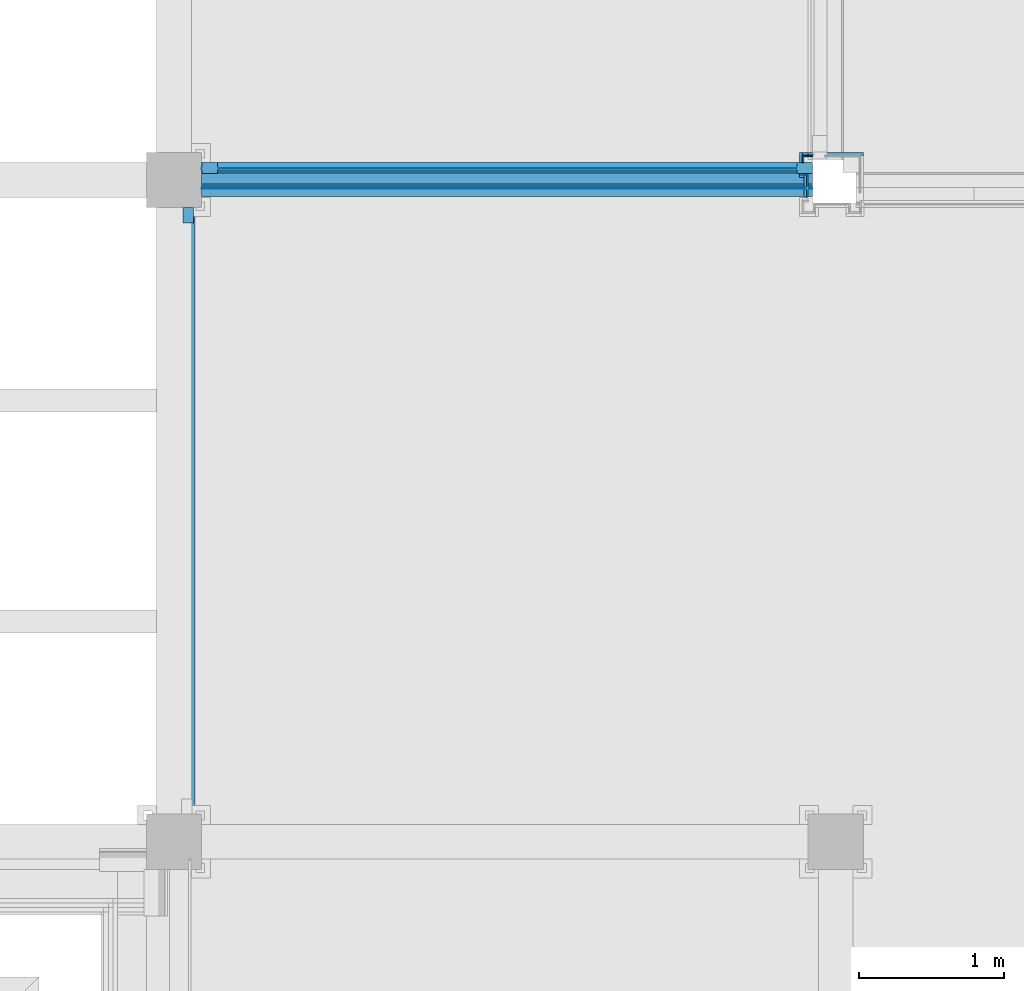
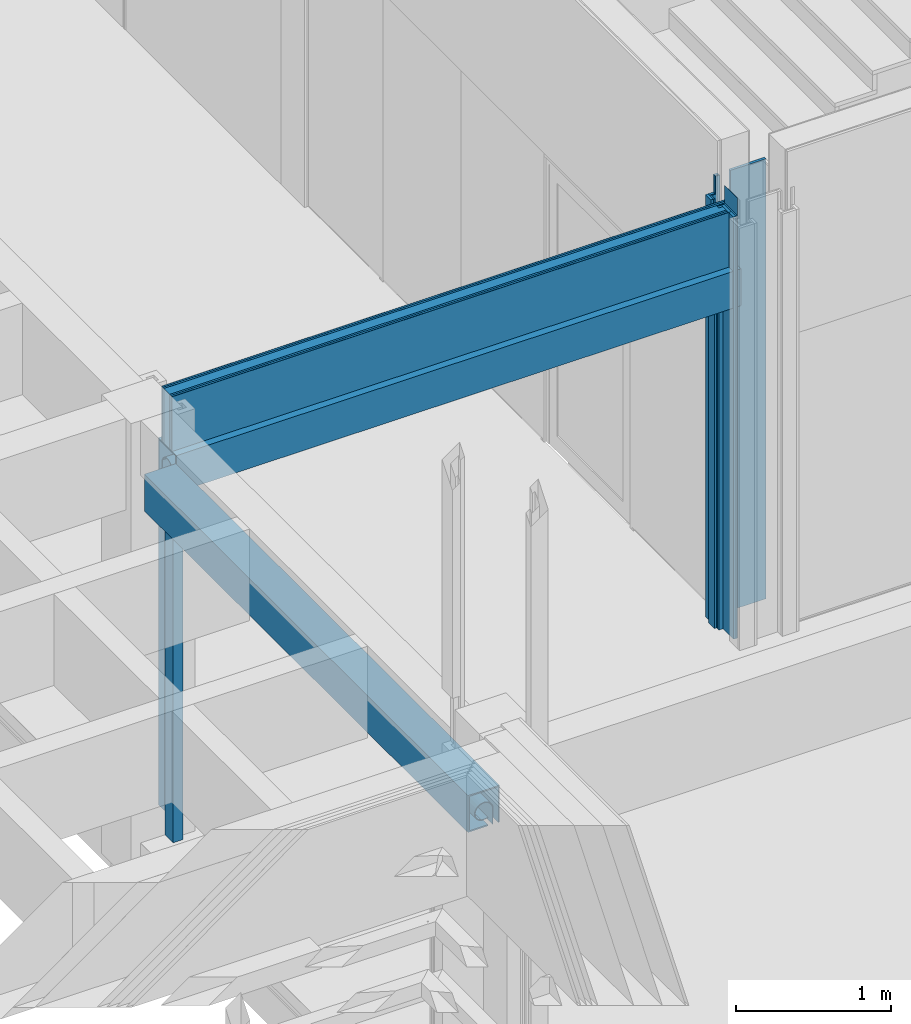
# One storey, part 76 of 139: 16 building element parts, 5 discrete accessories, 6 elements without a shape of their own.
"""IFC2X3 building model written with IfcOpenShell, lengths in millimetres."""

from ifc_helpers import new_model, entity, si_unit, converted_unit, derived_unit, money_unit, direction, frame, origin_with_axes, place, context, subcontext, project, spatial, faceted_brep, material, material_list, type_object, element, aggregate, save


model = new_model("IFC2X3")

# Units and contexts
model_context = context("Model", 3, precision=0.01, world=origin_with_axes(), true_north=direction((0.0, 1.0)))
body_context = subcontext(model_context, "Body", "Model", "MODEL_VIEW")
ifc_project = project(units=[si_unit("LENGTHUNIT", "METRE", prefix="MILLI"), si_unit("AREAUNIT", "SQUARE_METRE"), si_unit("VOLUMEUNIT", "CUBIC_METRE"), converted_unit("PLANEANGLEUNIT", "DEGREE", entity("IfcPlaneAngleMeasure", 0.0174532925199), si_unit("PLANEANGLEUNIT", "RADIAN"), dimensions=[0, 0, 0, 0, 0, 0, 0]), money_unit("EUR"), converted_unit("TIMEUNIT", "Year", entity("IfcTimeMeasure", 31556926.0), si_unit("TIMEUNIT", "SECOND"), dimensions=[0, 0, 1, 0, 0, 0, 0]), si_unit("MASSUNIT", "GRAM", prefix="KILO"), si_unit("THERMODYNAMICTEMPERATUREUNIT", "DEGREE_CELSIUS"), si_unit("LUMINOUSINTENSITYUNIT", "LUMEN"), si_unit("ENERGYUNIT", "JOULE", prefix="MEGA"), derived_unit("THERMALCONDUCTANCEUNIT", [(si_unit("POWERUNIT", "WATT"), 1), (si_unit("LENGTHUNIT", "METRE"), -1), (si_unit("THERMODYNAMICTEMPERATUREUNIT", "KELVIN"), -1)]), derived_unit("SPECIFICHEATCAPACITYUNIT", [(si_unit("ENERGYUNIT", "JOULE"), 1), (si_unit("MASSUNIT", "GRAM", prefix="KILO"), -1), (si_unit("THERMODYNAMICTEMPERATUREUNIT", "KELVIN"), -1)]), derived_unit("MASSDENSITYUNIT", [(si_unit("MASSUNIT", "GRAM", prefix="KILO"), 1), (si_unit("VOLUMEUNIT", "CUBIC_METRE"), -1)])], contexts=[model_context])

# Site, building, storey
site_placement = place(None, origin_with_axes())
site = spatial("IfcSite", under=ifc_project, at=site_placement, Name="Kolde pst 67a", CompositionType="ELEMENT")
building_placement = place(site_placement, origin_with_axes())
building = spatial("IfcBuilding", under=site, at=building_placement, Name="Riigigümnaasium", CompositionType="ELEMENT")
storey_placement = place(building_placement, frame((0.0, 0.0, 4600.0), z_axis=(0.0, 0.0, 1.0), x_axis=(1.0, 0.0, 0.0)))
storey = spatial("IfcBuildingStorey", under=building, at=storey_placement, Name="2. korrus", CompositionType="ELEMENT", Elevation=4600.0)

# Discrete accessories
ifc_material_1 = material(Name="_ÕHK")
ifc_material_2 = material(Name="_METALL - teras")
ifc_material_list = material_list([ifc_material_1, ifc_material_2])
discrete_accessory_type_1 = type_object("IfcDiscreteAccessoryType", Name="Fibreshield-p H kuni 6 m  235 x 290")
discrete_accessory_1_placement = place(storey_placement, frame((48162.4854611, 24420.0014333, 2600.0), z_axis=(0.0, 0.0, 1.0), x_axis=(1.0, 0.0, 0.0)))
element("IfcDiscreteAccessory", 1, at=discrete_accessory_1_placement, inside=storey, type_object=discrete_accessory_type_1, material=ifc_material_list, Name="Tuletõkkekardin", context=body_context, shape_type="Brep", body=[
    faceted_brep([(22.499999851, 4170.003165, 126.667118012), (24.8060324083, 4170.003165, 108.84783711), (24.8060324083, 0.0, 108.84783711), (22.499999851, 0.0, 126.667118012), (25.7653806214, 4170.003165, 147.797442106), (35.2568740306, 4170.003165, 166.956378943), (50.0889560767, 4170.003165, 182.356464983), (68.8778440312, 4170.003165, 192.560924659), (89.8705986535, 4170.003165, 196.617716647), (111.10866745, 4170.003165, 194.148356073), (130.610610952, 4170.003165, 185.383225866), (146.556964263, 4170.003165, 171.140082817), (157.459986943, 4170.003165, 152.747763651), (161.228447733, 4170.003165, 139.948701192), (162.499999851, 4170.003165, 126.667118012), (162.499999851, 4170.003165, 0.555395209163), (157.499999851, 4170.003165, 0.555395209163), (157.499999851, 4170.003165, 126.667118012), (153.580020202, 4170.003165, 148.898427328), (142.292888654, 4170.003165, 168.448312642), (124.999999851, 4170.003165, 182.958769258), (103.787131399, 4170.003165, 190.679621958), (81.2128683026, 4170.003165, 190.679621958), (59.999999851, 4170.003165, 182.958769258), (42.7071110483, 4170.003165, 168.448312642), (31.4199794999, 4170.003165, 148.898427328), (27.499999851, 4170.003165, 126.667118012), (30.6090574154, 4170.003165, 106.804810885), (39.6388073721, 4170.003165, 88.8425977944), (53.7254339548, 4170.003165, 74.4988034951), (71.5213638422, 4170.003165, 65.1456028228), (97.8520772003, 4170.003165, 63.4245440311), (123.519091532, 4170.003165, 69.546054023), (125.382804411, 4170.003165, 64.871315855), (107.591032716, 4170.003165, 59.5917922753), (89.1009241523, 4170.003165, 57.9991860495), (70.6684146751, 4170.003165, 60.1586081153), (56.4372110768, 4170.003165, 66.6714909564), (42.3526829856, 4170.003165, 77.8281314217), (31.572193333, 4170.003165, 92.2026088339), (31.572193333, 0.0, 92.2026088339), (42.3526829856, 0.0, 77.8281314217), (56.4372110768, 0.0, 66.6714909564), (70.6684146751, 0.0, 60.1586081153), (89.1009241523, 0.0, 57.9991860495), (107.591032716, 0.0, 59.5917922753), (125.382804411, 0.0, 64.871315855), (123.519091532, 0.0, 69.546054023), (97.8520772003, 0.0, 63.4245440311), (71.5213638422, 0.0, 65.1456028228), (53.7254339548, 0.0, 74.4988034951), (39.6388073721, 0.0, 88.8425977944), (30.6090574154, 0.0, 106.804810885), (27.499999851, 0.0, 126.667118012), (31.4199794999, 0.0, 148.898427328), (42.7071110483, 0.0, 168.448312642), (59.999999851, 0.0, 182.958769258), (81.2128683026, 0.0, 190.679621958), (103.787131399, 0.0, 190.679621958), (124.999999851, 0.0, 182.958769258), (142.292888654, 0.0, 168.448312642), (153.580020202, 0.0, 148.898427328), (157.499999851, 0.0, 126.667118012), (157.499999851, 0.0, 0.555395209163), (162.499999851, 0.0, 0.555395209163), (162.499999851, 0.0, 126.667118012), (161.228447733, 0.0, 139.948701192), (157.459986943, 0.0, 152.747763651), (146.556964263, 0.0, 171.140082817), (130.610610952, 0.0, 185.383225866), (111.10866745, 0.0, 194.148356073), (89.8705986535, 0.0, 196.617716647), (68.8778440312, 0.0, 192.560924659), (50.0889560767, 0.0, 182.356464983), (35.2568740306, 0.0, 166.956378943), (25.7653806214, 0.0, 147.797442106)], [[[0, 1, 2, 3]], [[0, 4, 5, 6, 7, 8, 9, 10, 11, 12, 13, 14, 15, 16, 17, 18, 19, 20, 21, 22, 23, 24, 25, 26, 27, 28, 29, 30, 31, 32, 33, 34, 35, 36, 37, 38, 39, 1]], [[1, 39, 40, 2]], [[3, 2, 40, 41, 42, 43, 44, 45, 46, 47, 48, 49, 50, 51, 52, 53, 54, 55, 56, 57, 58, 59, 60, 61, 62, 63, 64, 65, 66, 67, 68, 69, 70, 71, 72, 73, 74, 75]], [[4, 0, 3, 75]], [[5, 4, 75, 74]], [[6, 5, 74, 73]], [[7, 6, 73, 72]], [[8, 7, 72, 71]], [[9, 8, 71, 70]], [[10, 9, 70, 69]], [[11, 10, 69, 68]], [[12, 11, 68, 67]], [[13, 12, 67, 66]], [[14, 13, 66, 65]], [[15, 14, 65, 64]], [[16, 15, 64, 63]], [[17, 16, 63, 62]], [[18, 17, 62, 61]], [[19, 18, 61, 60]], [[20, 19, 60, 59]], [[21, 20, 59, 58]], [[22, 21, 58, 57]], [[23, 22, 57, 56]], [[24, 23, 56, 55]], [[25, 24, 55, 54]], [[26, 25, 54, 53]], [[27, 26, 53, 52]], [[28, 27, 52, 51]], [[29, 28, 51, 50]], [[30, 29, 50, 49]], [[31, 30, 49, 48]], [[32, 31, 48, 47]], [[33, 32, 47, 46]], [[34, 33, 46, 45]], [[35, 34, 45, 44]], [[36, 35, 44, 43]], [[37, 36, 43, 42]], [[38, 37, 42, 41]], [[39, 38, 41, 40]]]),
    faceted_brep([(-25.0, 4170.003165, 0.0), (122.368444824, 4170.003165, 0.0), (122.368444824, 0.0, 0.0), (-25.0, 0.0, 0.0), (-25.0, 4170.003165, 290.0), (210.000000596, 4170.003165, 290.0), (210.000000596, 4170.003165, 0.0), (199.999998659, 4170.003165, 0.0), (199.999998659, 4170.003165, 279.999998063), (-14.9999980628, 4170.003165, 279.999998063), (-14.9999980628, 4170.003165, 10.0000019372), (122.368444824, 4170.003165, 10.0000019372), (122.368444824, 0.0, 10.0000019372), (-14.9999980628, 0.0, 10.0000019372), (-14.9999980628, 0.0, 279.999998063), (199.999998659, 0.0, 279.999998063), (199.999998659, 0.0, 0.0), (210.000000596, 0.0, 0.0), (210.000000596, 0.0, 290.0), (-25.0, 0.0, 290.0)], [[[0, 1, 2, 3]], [[0, 4, 5, 6, 7, 8, 9, 10, 11, 1]], [[1, 11, 12, 2]], [[3, 2, 12, 13, 14, 15, 16, 17, 18, 19]], [[4, 0, 3, 19]], [[5, 4, 19, 18]], [[6, 5, 18, 17]], [[7, 6, 17, 16]], [[8, 7, 16, 15]], [[9, 8, 15, 14]], [[10, 9, 14, 13]], [[11, 10, 13, 12]]]),
])
discrete_accessory_2_placement = place(storey_placement, frame((52618.9990217, 28689.9997017, 2600.0), z_axis=(0.0, 0.0, 1.0), x_axis=(0.0, 1.0, 0.0)))
element("IfcDiscreteAccessory", 2, at=discrete_accessory_2_placement, inside=storey, type_object=discrete_accessory_type_1, material=ifc_material_list, Name="Tuletõkkekardin", context=body_context, shape_type="Brep", body=[
    faceted_brep([(135.999998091, 29.0048994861, 180.569472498), (130.610610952, 29.0048994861, 185.383225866), (130.610610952, 0.0, 185.383225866), (146.556964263, 0.0, 171.140082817), (146.556964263, 4199.01356101, 171.140082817), (130.610610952, 4199.01356101, 185.383225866), (130.610610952, 89.0049028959, 185.383225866), (135.999998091, 89.0049028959, 180.569472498), (135.999998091, 39.0048994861, 180.569472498), (135.999998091, 29.0048994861, 173.728674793), (124.999999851, 29.0048994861, 182.958769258), (103.787131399, 29.0048994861, 190.679621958), (81.2128683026, 29.0048994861, 190.679621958), (59.999999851, 29.0048994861, 182.958769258), (42.7071110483, 29.0048994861, 168.448312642), (31.4199794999, 29.0048994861, 148.898427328), (27.499999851, 29.0048994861, 126.667118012), (30.6090574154, 29.0048994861, 106.804810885), (39.6388073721, 29.0048994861, 88.8425977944), (53.7254339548, 29.0048994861, 74.4988034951), (71.5213638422, 29.0048994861, 65.1456028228), (97.8520772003, 29.0048994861, 63.4245440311), (123.519091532, 29.0048994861, 69.546054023), (125.382804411, 29.0048994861, 64.871315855), (107.591032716, 29.0048994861, 59.5917922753), (89.1009241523, 29.0048994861, 57.9991860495), (70.6684146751, 29.0048994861, 60.1586081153), (56.4372110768, 29.0048994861, 66.6714909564), (42.3526829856, 29.0048994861, 77.8281314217), (31.572193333, 29.0048994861, 92.2026088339), (24.8060324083, 29.0048994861, 108.84783711), (22.499999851, 29.0048994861, 126.667118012), (25.7653806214, 29.0048994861, 147.797442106), (35.2568740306, 29.0048994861, 166.956378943), (50.0889560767, 29.0048994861, 182.356464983), (68.8778440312, 29.0048994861, 192.560924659), (89.8705986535, 29.0048994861, 196.617716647), (111.10866745, 29.0048994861, 194.148356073), (111.10866745, 0.0, 194.148356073), (25.7653806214, 0.0, 147.797442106), (22.499999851, 0.0, 126.667118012), (24.8060324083, 0.0, 108.84783711), (31.572193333, 0.0, 92.2026088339), (42.3526829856, 0.0, 77.8281314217), (56.4372110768, 0.0, 66.6714909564), (70.6684146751, 0.0, 60.1586081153), (89.1009241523, 0.0, 57.9991860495), (107.591032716, 0.0, 59.5917922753), (125.382804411, 0.0, 64.871315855), (123.519091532, 0.0, 69.546054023), (97.8520772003, 0.0, 63.4245440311), (71.5213638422, 0.0, 65.1456028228), (53.7254339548, 0.0, 74.4988034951), (39.6388073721, 0.0, 88.8425977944), (30.6090574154, 0.0, 106.804810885), (27.499999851, 0.0, 126.667118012), (31.4199794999, 0.0, 148.898427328), (42.7071110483, 0.0, 168.448312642), (59.999999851, 0.0, 182.958769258), (81.2128683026, 0.0, 190.679621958), (103.787131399, 0.0, 190.679621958), (124.999999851, 0.0, 182.958769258), (142.292888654, 0.0, 168.448312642), (153.580020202, 0.0, 148.898427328), (157.499999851, 0.0, 126.667118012), (157.499999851, 0.0, 0.555395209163), (162.499999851, 0.0, 0.555395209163), (162.499999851, 0.0, 126.667118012), (161.228447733, 0.0, 139.948701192), (157.459986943, 0.0, 152.747763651), (89.8705986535, 0.0, 196.617716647), (68.8778440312, 0.0, 192.560924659), (50.0889560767, 0.0, 182.356464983), (35.2568740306, 0.0, 166.956378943), (157.459986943, 4199.01356101, 152.747763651), (24.8060324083, 4199.01356101, 108.84783711), (22.499999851, 4199.01356101, 126.667118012), (25.7653806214, 4199.01356101, 147.797442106), (35.2568740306, 4199.01356101, 166.956378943), (50.0889560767, 4199.01356101, 182.356464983), (68.8778440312, 4199.01356101, 192.560924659), (89.8705986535, 4199.01356101, 196.617716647), (111.10866745, 4199.01356101, 194.148356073), (161.228447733, 4199.01356101, 139.948701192), (162.499999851, 4199.01356101, 126.667118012), (162.499999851, 4199.01356101, 0.555395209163), (157.499999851, 4199.01356101, 0.555395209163), (157.499999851, 4199.01356101, 126.667118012), (153.580020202, 4199.01356101, 148.898427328), (142.292888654, 4199.01356101, 168.448312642), (124.999999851, 4199.01356101, 182.958769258), (103.787131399, 4199.01356101, 190.679621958), (81.2128683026, 4199.01356101, 190.679621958), (59.999999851, 4199.01356101, 182.958769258), (42.7071110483, 4199.01356101, 168.448312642), (31.4199794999, 4199.01356101, 148.898427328), (27.499999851, 4199.01356101, 126.667118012), (30.6090574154, 4199.01356101, 106.804810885), (39.6388073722, 4199.01356101, 88.8425977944), (53.7254339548, 4199.01356101, 74.4988034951), (71.5213638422, 4199.01356101, 65.1456028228), (97.8520772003, 4199.01356101, 63.4245440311), (123.519091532, 4199.01356101, 69.546054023), (125.382804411, 4199.01356101, 64.871315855), (107.591032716, 4199.01356101, 59.5917922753), (89.1009241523, 4199.01356101, 57.9991860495), (70.6684146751, 4199.01356101, 60.1586081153), (56.4372110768, 4199.01356101, 66.6714909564), (42.3526829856, 4199.01356101, 77.8281314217), (31.572193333, 4199.01356101, 92.2026088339), (111.10866745, 89.0049028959, 194.148356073), (135.999998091, 89.0049028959, 173.728674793), (105.999998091, 89.0049028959, 194.74234354), (105.999998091, 89.0049028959, 189.87420435), (124.999999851, 89.0049028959, 182.958769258), (135.999998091, 39.0048994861, 173.728674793), (24.8060324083, 59.0048994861, 108.84783711), (22.499999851, 59.0048994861, 126.667118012), (25.7653806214, 59.0048994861, 147.797442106), (35.2568740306, 59.0048994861, 166.956378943), (50.0889560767, 59.0048994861, 182.356464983), (68.8778440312, 59.0048994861, 192.560924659), (89.8705986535, 59.0048994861, 196.617716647), (105.999998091, 59.0048994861, 194.74234354), (105.999998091, 59.0048994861, 189.87420435), (103.787131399, 59.0048994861, 190.679621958), (81.2128683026, 59.0048994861, 190.679621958), (59.999999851, 59.0048994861, 182.958769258), (42.7071110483, 59.0048994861, 168.448312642), (31.4199794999, 59.0048994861, 148.898427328), (27.499999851, 59.0048994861, 126.667118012), (30.6090574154, 59.0048994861, 106.804810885), (39.6388073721, 59.0048994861, 88.8425977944), (53.7254339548, 59.0048994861, 74.4988034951), (71.5213638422, 59.0048994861, 65.1456028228), (97.8520772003, 59.0048994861, 63.4245440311), (105.999998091, 59.0048994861, 65.3678000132), (105.999998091, 89.0049028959, 65.3678000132), (123.519091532, 89.0049028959, 69.546054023), (125.382804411, 89.0049028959, 64.871315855), (107.591032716, 89.0049028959, 59.5917922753), (105.999998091, 59.0048994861, 59.4547518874), (89.1009241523, 59.0048994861, 57.9991860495), (105.999998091, 89.0049028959, 59.4547518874), (70.6684146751, 59.0048994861, 60.1586081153), (56.4372110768, 59.0048994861, 66.6714909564), (42.3526829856, 59.0048994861, 77.8281314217), (31.572193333, 59.0048994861, 92.2026088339)], [[[0, 1, 2, 3, 4, 5, 6, 7, 8]], [[1, 0, 9, 10, 11, 12, 13, 14, 15, 16, 17, 18, 19, 20, 21, 22, 23, 24, 25, 26, 27, 28, 29, 30, 31, 32, 33, 34, 35, 36, 37]], [[1, 37, 38, 2]], [[39, 40, 41, 42, 43, 44, 45, 46, 47, 48, 49, 50, 51, 52, 53, 54, 55, 56, 57, 58, 59, 60, 61, 62, 63, 64, 65, 66, 67, 68, 69, 3, 2, 38, 70, 71, 72, 73]], [[69, 74, 4, 3]], [[75, 76, 77, 78, 79, 80, 81, 82, 5, 4, 74, 83, 84, 85, 86, 87, 88, 89, 90, 91, 92, 93, 94, 95, 96, 97, 98, 99, 100, 101, 102, 103, 104, 105, 106, 107, 108, 109]], [[6, 5, 82, 110]], [[111, 7, 6, 110, 112, 113, 114]], [[115, 8, 7, 111]], [[0, 8, 115, 9]], [[9, 115, 111, 114, 90, 89, 62, 61, 10]], [[11, 10, 61, 60]], [[12, 11, 60, 59]], [[13, 12, 59, 58]], [[14, 13, 58, 57]], [[15, 14, 57, 56]], [[16, 15, 56, 55]], [[17, 16, 55, 54]], [[18, 17, 54, 53]], [[19, 18, 53, 52]], [[20, 19, 52, 51]], [[21, 20, 51, 50]], [[22, 21, 50, 49]], [[23, 22, 49, 48]], [[24, 23, 48, 47]], [[25, 24, 47, 46]], [[26, 25, 46, 45]], [[27, 26, 45, 44]], [[28, 27, 44, 43]], [[29, 28, 43, 42]], [[30, 29, 42, 41]], [[31, 30, 41, 40]], [[32, 31, 40, 39]], [[33, 32, 39, 73]], [[34, 33, 73, 72]], [[35, 34, 72, 71]], [[36, 35, 71, 70]], [[37, 36, 70, 38]], [[62, 89, 88, 63]], [[63, 88, 87, 64]], [[64, 87, 86, 65]], [[65, 86, 85, 66]], [[66, 85, 84, 67]], [[67, 84, 83, 68]], [[68, 83, 74, 69]], [[116, 117, 76, 75]], [[117, 118, 77, 76]], [[118, 119, 78, 77]], [[119, 120, 79, 78]], [[120, 121, 80, 79]], [[121, 122, 81, 80]], [[122, 123, 112, 110, 82, 81]], [[124, 125, 91, 90, 114, 113]], [[125, 126, 92, 91]], [[126, 127, 93, 92]], [[127, 128, 94, 93]], [[128, 129, 95, 94]], [[129, 130, 96, 95]], [[130, 131, 97, 96]], [[131, 132, 98, 97]], [[132, 133, 99, 98]], [[133, 134, 100, 99]], [[134, 135, 101, 100]], [[135, 136, 137, 138, 102, 101]], [[138, 139, 103, 102]], [[139, 140, 104, 103]], [[141, 142, 105, 104, 140, 143]], [[142, 144, 106, 105]], [[144, 145, 107, 106]], [[145, 146, 108, 107]], [[146, 147, 109, 108]], [[147, 116, 75, 109]], [[123, 124, 113, 112]], [[124, 123, 122, 121, 120, 119, 118, 117, 116, 147, 146, 145, 144, 142, 141, 136, 135, 134, 133, 132, 131, 130, 129, 128, 127, 126, 125]], [[136, 141, 143, 137]], [[140, 139, 138, 137, 143]]]),
    faceted_brep([(-25.0, 4199.01356101, 0.0), (122.368444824, 4199.01356101, 0.0), (122.368444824, 0.0, 0.0), (-25.0, 0.0, 0.0), (-25.0, 4199.01356101, 290.0), (210.000000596, 4199.01356101, 290.0), (210.000000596, 4199.01356101, 0.0), (199.999998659, 4199.01356101, 0.0), (199.999998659, 4199.01356101, 279.999998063), (-14.9999980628, 4199.01356101, 279.999998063), (-14.9999980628, 4199.01356101, 10.0000019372), (122.368444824, 4199.01356101, 10.0000019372), (122.368444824, 0.0, 10.0000019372), (-14.9999980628, 0.0, 10.0000019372), (-14.9999980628, 0.0, 279.999998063), (199.999998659, 0.0, 279.999998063), (199.999998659, 0.0, 0.0), (210.000000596, 0.0, 0.0), (210.000000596, 0.0, 290.0), (-25.0, 0.0, 290.0)], [[[0, 1, 2, 3]], [[0, 4, 5, 6, 7, 8, 9, 10, 11, 1]], [[1, 11, 12, 2]], [[3, 2, 12, 13, 14, 15, 16, 17, 18, 19]], [[4, 0, 3, 19]], [[5, 4, 19, 18]], [[6, 5, 18, 17]], [[7, 6, 17, 16]], [[8, 7, 16, 15]], [[9, 8, 15, 14]], [[10, 9, 14, 13]], [[11, 10, 13, 12]]]),
])
discrete_accessory_type_2 = type_object("IfcDiscreteAccessoryType", Name="_METALL - teras 74 x 105")
for number, where, z_axis, x_axis in (
    (3, (52566.4941222, 28862.9996998, 0.0), (0.0, 0.0, 1.0), (0.0, -1.0, 0.0)),
    (4, (48475.4805621, 28862.9996989, 0.0), (0.0, 0.0, 1.0), (0.0, -1.0, 0.0)),
    (5, (48327.9854602, 28537.5045983, 0.0), (0.0, 0.0, 1.0), (-1.0, 0.0, 0.0)),
):
    element("IfcDiscreteAccessory", number, at=place(storey_placement, frame(where, z_axis=z_axis, x_axis=x_axis)), inside=storey, type_object=discrete_accessory_type_2, material=ifc_material_2, Name="Tuletõkke kardin", context=body_context, shape_type="Brep", body=[
        faceted_brep([(37.0, 52.5, 2600.0), (37.0, 52.5, 0.0), (-37.0, 52.5, 0.0), (-37.0, 52.5, 2600.0), (37.0, -52.5, 2600.0), (37.0, -52.5, 0.0), (-37.0, -52.5, 0.0), (-37.0, -52.5, 2600.0)], [[[0, 1, 2, 3]], [[4, 5, 1, 0]], [[2, 1, 5, 6]], [[3, 2, 6, 7]], [[4, 0, 3, 7]], [[7, 6, 5, 4]]]),
    ])

# Wall, building element parts
wall_type_1 = type_object("IfcWallType", Name="SS-MK-1/1_1x dold pinnakiht 30", PredefinedType="NOTDEFINED")
wall_1_placement = place(storey_placement, frame((52589.9941222, 28659.6780521, 0.0), z_axis=(0.0, 0.0, 1.0), x_axis=(0.0, 1.0, 0.0)))
wall_1 = element("IfcWall", 6, at=wall_1_placement, inside=storey, type_object=wall_type_1, Name="Sisesein")
ifc_material_3 = material(Name="_VIIMISTLUSKIHT - Dold plaat vastavalt SA osale")
building_element_part_1_placement = place(wall_1_placement, origin_with_axes())
building_element_part_1 = element("IfcBuildingElementPart", 7, at=building_element_part_1_placement, material=ifc_material_3, Name="_VIIMISTLUSKIHT - Dold plaat vastavalt SA osale", context=body_context, shape_type="Brep", body=[
    faceted_brep([(5.32164961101, 10.0, 2600.0), (5.32164961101, 10.0, 2890.0), (156.321647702, 10.0, 2890.0), (156.321647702, 10.0, 3320.0), (0.0, 10.0, 3320.0), (0.0, 10.0, 0.0), (156.321647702, 10.0, 0.0), (156.321647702, 10.0, 2879.99999806), (15.3216515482, 10.0, 2879.99999806), (15.3216515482, 10.0, 2610.00000194), (152.690094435, 10.0, 2610.00000194), (152.690094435, 10.0, 2600.0), (5.32164961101, 30.0, 2600.0), (5.32164961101, 30.0, 2890.0), (156.321647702, 30.0, 2890.0), (156.321647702, 30.0, 3320.0), (0.0, 30.0, 3320.0), (0.0, 30.0, 0.0), (156.321647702, 30.0, 0.0), (156.321647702, 30.0, 2879.99999806), (15.3216515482, 30.0, 2879.99999806), (15.3216515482, 30.0, 2610.00000194), (152.690094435, 30.0, 2610.00000194), (152.690094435, 30.0, 2600.0)], [[[0, 1, 2, 3, 4, 5, 6, 7, 8, 9, 10, 11]], [[1, 0, 12, 13]], [[14, 2, 1, 13]], [[2, 14, 15, 3]], [[16, 4, 3, 15]], [[5, 4, 16, 17]], [[17, 18, 6, 5]], [[19, 7, 6, 18]], [[8, 7, 19, 20]], [[9, 8, 20, 21]], [[10, 9, 21, 22]], [[11, 10, 22, 23]], [[0, 11, 23, 12]], [[20, 19, 18, 17, 16, 15, 14, 13, 12, 23, 22, 21]]]),
])
ifc_material_4 = material(Name="_KARKASS - eriprofiilkinnitus vastavalt sisemisele plaatviimistlusele")
building_element_part_2_placement = place(wall_1_placement, origin_with_axes())
building_element_part_2 = element("IfcBuildingElementPart", 8, at=building_element_part_2_placement, material=ifc_material_4, Name="_KARKASS - eriprofiilkinnitus vastavalt sisemisele plaatviimistlusele", context=body_context, shape_type="Brep", body=[
    faceted_brep([(152.690094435, 0.0, 2600.0), (5.32164961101, 0.0, 2600.0), (5.32164961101, 0.0, 2890.0), (166.321647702, 0.0, 2890.0), (166.321647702, 0.0, 3460.0), (0.0, 0.0, 3460.0), (0.0, 0.0, 0.0), (166.321647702, 0.0, 0.0), (166.321647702, 0.0, 2879.99999806), (15.3216515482, 0.0, 2879.99999806), (15.3216515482, 0.0, 2610.00000194), (152.690094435, 0.0, 2610.00000194), (5.32164961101, 10.0, 2600.0), (152.690094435, 10.0, 2600.0), (5.32164961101, 10.0, 2890.0), (166.321647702, 10.0, 2890.0), (166.321647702, 10.0, 3320.0), (166.321647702, 0.999999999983, 3320.0), (166.321647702, 0.999999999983, 3460.0), (0.0, 0.999999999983, 3460.0), (0.0, 0.999999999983, 3320.0), (0.0, 10.0, 3320.0), (0.0, 10.0, 0.0), (166.321647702, 10.0, 0.0), (166.321647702, 10.0, 2879.99999806), (15.3216515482, 10.0, 2879.99999806), (15.3216515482, 10.0, 2610.00000194), (152.690094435, 10.0, 2610.00000194)], [[[0, 1, 2, 3, 4, 5, 6, 7, 8, 9, 10, 11]], [[12, 1, 0, 13]], [[14, 2, 1, 12]], [[14, 15, 3, 2]], [[4, 3, 15, 16, 17, 18]], [[5, 4, 18, 19]], [[5, 19, 20, 21, 22, 6]], [[6, 22, 23, 7]], [[23, 24, 8, 7]], [[25, 9, 8, 24]], [[26, 10, 9, 25]], [[27, 11, 10, 26]], [[13, 0, 11, 27]], [[26, 25, 24, 23, 22, 21, 16, 15, 14, 12, 13, 27]], [[21, 20, 17, 16]], [[17, 20, 19, 18]]]),
])
aggregate(wall_1, [building_element_part_1, building_element_part_2])

wall_2_placement = place(storey_placement, frame((52589.9941222, 28825.9996998, 0.0), z_axis=(0.0, 0.0, 1.0), x_axis=(-1.0, 0.0, 0.0)))
wall_2 = element("IfcWall", 9, at=wall_2_placement, inside=storey, type_object=wall_type_1, Name="Sisesein")
building_element_part_3_placement = place(wall_2_placement, origin_with_axes())
building_element_part_3 = element("IfcBuildingElementPart", 10, at=building_element_part_3_placement, material=ifc_material_3, Name="_VIIMISTLUSKIHT - Dold plaat vastavalt SA osale", context=body_context, shape_type="Brep", body=[
    faceted_brep([(30.0, 10.0, 2879.99999806), (30.0, 30.0, 2879.99999806), (30.0, 30.0, 2610.00000194), (30.0, 13.6315532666, 2610.00000194), (30.0, 13.6315532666, 2600.0), (30.0, 30.0, 2600.0), (30.0, 30.0, 0.0), (30.0, 10.0, 0.0), (60.0000034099, 10.0, 2879.99999806), (60.0000034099, 30.0, 2879.99999806), (60.0000034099, 30.0, 2610.00000194), (60.0000034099, 13.6315532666, 2610.00000194), (60.0000034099, 13.6315532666, 2600.0), (60.0000034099, 30.0, 2600.0), (60.0000034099, 30.0, 0.0), (60.0000034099, 10.0, 0.0)], [[[0, 1, 2, 3, 4, 5, 6, 7]], [[1, 0, 8, 9]], [[1, 9, 10, 2]], [[3, 2, 10, 11]], [[4, 3, 11, 12]], [[5, 4, 12, 13]], [[5, 13, 14, 6]], [[7, 6, 14, 15]], [[8, 0, 7, 15]], [[9, 8, 15, 14, 13, 12, 11, 10]]]),
    faceted_brep([(30.0, 30.0, 2890.0), (30.0, 10.0, 2890.0), (30.0, 10.0, 3320.0), (30.0, 30.0, 3320.0), (60.0000034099, 10.0, 2890.0), (60.0000034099, 30.0, 2890.0), (60.0000034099, 10.0, 3320.0), (60.0000034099, 30.0, 3320.0)], [[[0, 1, 2, 3]], [[4, 1, 0, 5]], [[1, 4, 6, 2]], [[7, 3, 2, 6]], [[5, 0, 3, 7]], [[4, 5, 7, 6]]]),
])
building_element_part_4_placement = place(wall_2_placement, origin_with_axes())
building_element_part_4 = element("IfcBuildingElementPart", 11, at=building_element_part_4_placement, material=ifc_material_4, Name="_KARKASS - eriprofiilkinnitus vastavalt sisemisele plaatviimistlusele", context=body_context, shape_type="Brep", body=[
    faceted_brep([(60.0000034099, 0.0, 2879.99999806), (10.0, 0.0, 2879.99999806), (10.0, 0.0, 0.0), (60.0000034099, 0.0, 0.0), (10.0, 10.0, 2879.99999806), (60.0000034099, 10.0, 2879.99999806), (10.0, 10.0, 0.0), (60.0000034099, 10.0, 0.0)], [[[0, 1, 2, 3]], [[4, 1, 0, 5]], [[1, 4, 6, 2]], [[2, 6, 7, 3]], [[5, 0, 3, 7]], [[4, 5, 7, 6]]]),
    faceted_brep([(10.0, 10.0, 2890.0), (10.0, 0.0, 2890.0), (10.0, 0.0, 3320.0), (10.0, 10.0, 3320.0), (60.0000034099, 0.0, 2890.0), (60.0000034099, 10.0, 2890.0), (60.0000034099, 0.0, 3320.0), (60.0000034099, 10.0, 3320.0)], [[[0, 1, 2, 3]], [[4, 1, 0, 5]], [[1, 4, 6, 2]], [[7, 3, 2, 6]], [[5, 0, 3, 7]], [[4, 5, 7, 6]]]),
])
aggregate(wall_2, [building_element_part_3, building_element_part_4])

wall_3_placement = place(storey_placement, frame((52559.9941188, 28899.9996552, 0.0), z_axis=(0.0, 0.0, 1.0), x_axis=(0.0, 1.0, 0.0)))
wall_3 = element("IfcWall", 12, at=wall_3_placement, inside=storey, type_object=wall_type_1, Name="Sisesein")
building_element_part_5_placement = place(wall_3_placement, origin_with_axes())
building_element_part_5 = element("IfcBuildingElementPart", 13, at=building_element_part_5_placement, material=ifc_material_3, Name="_VIIMISTLUSKIHT - Dold plaat vastavalt SA osale", context=body_context, shape_type="Brep", body=[
    faceted_brep([(70.0000008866, 30.0, 0.0), (70.0000008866, 30.0, 3320.0), (70.0000008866, 10.0, 3320.0), (70.0000008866, 10.0, 0.0), (0.0, 30.0, 0.0), (0.0, 30.0, 3320.0), (0.0, 10.0, 3320.0), (0.0, 10.0, 0.0)], [[[0, 1, 2, 3]], [[4, 5, 1, 0]], [[5, 6, 2, 1]], [[3, 2, 6, 7]], [[4, 0, 3, 7]], [[7, 6, 5, 4]]]),
])
building_element_part_6_placement = place(wall_3_placement, origin_with_axes())
building_element_part_6 = element("IfcBuildingElementPart", 14, at=building_element_part_6_placement, material=ifc_material_4, Name="_KARKASS - eriprofiilkinnitus vastavalt sisemisele plaatviimistlusele", context=body_context, shape_type="Brep", body=[
    faceted_brep([(50.0000008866, 10.0, 0.0), (50.0000008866, 10.0, 3320.0), (50.0000008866, 0.0, 3320.0), (50.0000008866, 0.0, 0.0), (0.0, 10.0, 0.0), (0.0, 10.0, 3320.0), (0.0, 0.0, 3320.0), (0.0, 0.0, 0.0)], [[[0, 1, 2, 3]], [[4, 5, 1, 0]], [[5, 6, 2, 1]], [[3, 2, 6, 7]], [[4, 0, 3, 7]], [[7, 6, 5, 4]]]),
])
aggregate(wall_3, [building_element_part_5, building_element_part_6])

wall_4_placement = place(storey_placement, frame((52559.9941188, 28939.999656, 0.0), z_axis=(0.0, 0.0, 1.0), x_axis=(1.0, 0.0, 0.0)))
wall_4 = element("IfcWall", 15, at=wall_4_placement, inside=storey, type_object=wall_type_1, Name="Sisesein")
building_element_part_7_placement = place(wall_4_placement, origin_with_axes())
building_element_part_7 = element("IfcBuildingElementPart", 16, at=building_element_part_7_placement, material=ifc_material_3, Name="_VIIMISTLUSKIHT - Dold plaat vastavalt SA osale", context=body_context, shape_type="Brep", body=[
    faceted_brep([(-10.0, 30.0, 3320.0), (29.0000034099, 30.0, 3320.0), (29.0000034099, 30.0, 3460.0), (60.0000034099, 30.0, 3460.0), (60.0000034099, 30.0, 0.0), (-10.0, 30.0, 0.0), (-10.0, 10.0, 3320.0), (29.0000034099, 10.0, 3320.0), (29.0000034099, 10.0, 3460.0), (60.0000034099, 10.0, 3460.0), (60.0000034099, 10.0, 0.0), (-10.0, 10.0, 0.0)], [[[0, 1, 2, 3, 4, 5]], [[1, 0, 6, 7]], [[8, 2, 1, 7]], [[2, 8, 9, 3]], [[10, 4, 3, 9]], [[5, 4, 10, 11]], [[6, 0, 5, 11]], [[7, 6, 11, 10, 9, 8]]]),
])
building_element_part_8_placement = place(wall_4_placement, origin_with_axes())
building_element_part_8 = element("IfcBuildingElementPart", 17, at=building_element_part_8_placement, material=ifc_material_4, Name="_KARKASS - eriprofiilkinnitus vastavalt sisemisele plaatviimistlusele", context=body_context, shape_type="Brep", body=[
    faceted_brep([(0.0, 10.0, 3320.0), (29.0000034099, 10.0, 3320.0), (29.0000034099, 10.0, 3460.0), (60.0000034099, 10.0, 3460.0), (60.0000034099, 10.0, 0.0), (0.0, 10.0, 0.0), (0.0, 0.0, 3320.0), (29.0000034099, 0.0, 3320.0), (29.0000034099, 0.0, 3460.0), (60.0000034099, 0.0, 3460.0), (60.0000034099, 0.0, 0.0), (0.0, 0.0, 0.0)], [[[0, 1, 2, 3, 4, 5]], [[1, 0, 6, 7]], [[8, 2, 1, 7]], [[2, 8, 9, 3]], [[10, 4, 3, 9]], [[5, 4, 10, 11]], [[6, 0, 5, 11]], [[7, 6, 11, 10, 9, 8]]]),
])
aggregate(wall_4, [building_element_part_7, building_element_part_8])

# Wall, building element part
wall_5_placement = place(storey_placement, frame((52703.9941222, 28939.999656, 0.0), z_axis=(0.0, 0.0, 1.0), x_axis=(1.0, 0.0, 0.0)))
wall_5 = element("IfcWall", 18, at=wall_5_placement, inside=storey, type_object=wall_type_1, Name="Sisesein")
building_element_part_9_placement = place(wall_5_placement, origin_with_axes())
building_element_part_9 = element("IfcBuildingElementPart", 19, at=building_element_part_9_placement, material=ifc_material_3, Name="_VIIMISTLUSKIHT - Dold plaat vastavalt SA osale", context=body_context, shape_type="Brep", body=[
    faceted_brep([(265.995100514, 10.0, 0.0), (0.0, 10.0, 0.0), (0.0, 30.0, 0.0), (265.995100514, 30.0, 0.0), (265.995100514, 10.0, 3460.0), (0.0, 10.0, 3460.0), (0.0, 30.0, 3460.0), (265.995100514, 30.0, 3460.0)], [[[0, 1, 2, 3]], [[4, 5, 1, 0]], [[2, 1, 5, 6]], [[3, 2, 6, 7]], [[3, 7, 4, 0]], [[7, 6, 5, 4]]]),
])
aggregate(wall_5, [building_element_part_9])

# Wall, building element parts
wall_type_2 = type_object("IfcWallType", Name="SS-MK-7,5/2_värvitud TTS sein 139", PredefinedType="NOTDEFINED")
wall_6_placement = place(storey_placement, frame((48419.9805612, 28859.4996997, 2890.0), z_axis=(0.0, 0.0, 1.0), x_axis=(1.0, 0.0, 0.0)))
wall_6 = element("IfcWall", 20, at=wall_6_placement, inside=storey, type_object=wall_type_2, Name="Sisesein")
ifc_material_5 = material(Name="_VIIMISTLUSKIHT - viimistlus vastavalt SA osale")
building_element_part_10_placement = place(wall_6_placement, origin_with_axes())
building_element_part_10 = element("IfcBuildingElementPart", 21, at=building_element_part_10_placement, material=ifc_material_5, Name="_VIIMISTLUSKIHT - viimistlus vastavalt SA osale", context=body_context, shape_type="Brep", body=[
    faceted_brep([(4199.01356101, -2.0, 429.999999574), (4199.01356101, 0.0, 429.999999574), (0.0, 0.0, 429.999999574), (0.0, -2.0, 429.999999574), (4199.01356101, -2.0, 0.0), (4199.01356101, 0.0, 0.0), (0.0, 0.0, 0.0), (0.0, -2.0, 0.0)], [[[0, 1, 2, 3]], [[0, 4, 5, 1]], [[1, 5, 6, 2]], [[3, 2, 6, 7]], [[4, 0, 3, 7]], [[5, 4, 7, 6]]]),
])
ifc_material_6 = material(Name="_PLAATMATERJAL - tuletõkkekipsplaat, Knauf Red GKF või samaväärne")
building_element_part_11_placement = place(wall_6_placement, origin_with_axes())
building_element_part_11 = element("IfcBuildingElementPart", 22, at=building_element_part_11_placement, material=ifc_material_6, Name="_PLAATMATERJAL - tuletõkkekipsplaat, Knauf Red GKF või samaväärne", context=body_context, shape_type="Brep", body=[
    faceted_brep([(4199.01356101, -17.0, 429.999999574), (4199.01356101, -2.0, 429.999999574), (0.0, -2.0, 429.999999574), (0.0, -17.0, 429.999999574), (4199.01356101, -17.0, 0.0), (4199.01356101, -2.0, 0.0), (0.0, -2.0, 0.0), (0.0, -17.0, 0.0)], [[[0, 1, 2, 3]], [[0, 4, 5, 1]], [[1, 5, 6, 2]], [[3, 2, 6, 7]], [[4, 0, 3, 7]], [[5, 4, 7, 6]]]),
])
building_element_part_12_placement = place(wall_6_placement, origin_with_axes())
building_element_part_12 = element("IfcBuildingElementPart", 23, at=building_element_part_12_placement, material=ifc_material_6, Name="_PLAATMATERJAL - tuletõkkekipsplaat, Knauf Red GKF või samaväärne", context=body_context, shape_type="Brep", body=[
    faceted_brep([(4199.01356101, -32.0, 429.999999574), (4199.01356101, -17.0, 429.999999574), (0.0, -17.0, 429.999999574), (0.0, -32.0, 429.999999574), (4199.01356101, -32.0, 0.0), (4199.01356101, -17.0, 0.0), (0.0, -17.0, 0.0), (0.0, -32.0, 0.0)], [[[0, 1, 2, 3]], [[0, 4, 5, 1]], [[1, 5, 6, 2]], [[3, 2, 6, 7]], [[4, 0, 3, 7]], [[5, 4, 7, 6]]]),
])
ifc_material_7 = material(Name="_KARKASS - metallkarkass CW 75/50, mineraalvill karkassi vahel")
building_element_part_13_placement = place(wall_6_placement, origin_with_axes())
building_element_part_13 = element("IfcBuildingElementPart", 24, at=building_element_part_13_placement, material=ifc_material_7, Name="_KARKASS - metallkarkass CW 75/50, mineraalvill karkassi vahel", context=body_context, shape_type="Brep", body=[
    faceted_brep([(4199.01356101, -107.0, 429.999999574), (4199.01356101, -32.0, 429.999999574), (0.0, -32.0, 429.999999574), (0.0, -107.0, 429.999999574), (4199.01356101, -107.0, 0.0), (4199.01356101, -32.0, 0.0), (0.0, -32.0, 0.0), (0.0, -107.0, 0.0)], [[[0, 1, 2, 3]], [[0, 4, 5, 1]], [[1, 5, 6, 2]], [[3, 2, 6, 7]], [[4, 0, 3, 7]], [[5, 4, 7, 6]]]),
])
building_element_part_14_placement = place(wall_6_placement, origin_with_axes())
building_element_part_14 = element("IfcBuildingElementPart", 25, at=building_element_part_14_placement, material=ifc_material_6, Name="_PLAATMATERJAL - tuletõkkekipsplaat, Knauf Red GKF või samaväärne", context=body_context, shape_type="Brep", body=[
    faceted_brep([(4199.01356101, -122.0, 429.999999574), (4199.01356101, -107.0, 429.999999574), (0.0, -107.0, 429.999999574), (0.0, -122.0, 429.999999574), (4199.01356101, -122.0, 0.0), (4199.01356101, -107.0, 0.0), (0.0, -107.0, 0.0), (0.0, -122.0, 0.0)], [[[0, 1, 2, 3]], [[0, 4, 5, 1]], [[1, 5, 6, 2]], [[3, 2, 6, 7]], [[4, 0, 3, 7]], [[5, 4, 7, 6]]]),
])
building_element_part_15_placement = place(wall_6_placement, origin_with_axes())
building_element_part_15 = element("IfcBuildingElementPart", 26, at=building_element_part_15_placement, material=ifc_material_6, Name="_PLAATMATERJAL - tuletõkkekipsplaat, Knauf Red GKF või samaväärne", context=body_context, shape_type="Brep", body=[
    faceted_brep([(4199.01356101, -137.0, 429.999999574), (4199.01356101, -122.0, 429.999999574), (0.0, -122.0, 429.999999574), (0.0, -137.0, 429.999999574), (4199.01356101, -137.0, 0.0), (4199.01356101, -122.0, 0.0), (0.0, -122.0, 0.0), (0.0, -137.0, 0.0)], [[[0, 1, 2, 3]], [[0, 4, 5, 1]], [[1, 5, 6, 2]], [[3, 2, 6, 7]], [[4, 0, 3, 7]], [[5, 4, 7, 6]]]),
])
building_element_part_16_placement = place(wall_6_placement, origin_with_axes())
building_element_part_16 = element("IfcBuildingElementPart", 27, at=building_element_part_16_placement, material=ifc_material_5, Name="_VIIMISTLUSKIHT - viimistlus vastavalt SA osale", context=body_context, shape_type="Brep", body=[
    faceted_brep([(4199.01356101, -139.0, 429.999999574), (4199.01356101, -137.0, 429.999999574), (0.0, -137.0, 429.999999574), (0.0, -139.0, 429.999999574), (4199.01356101, -139.0, 0.0), (4199.01356101, -137.0, 0.0), (0.0, -137.0, 0.0), (0.0, -139.0, 0.0)], [[[0, 1, 2, 3]], [[0, 4, 5, 1]], [[1, 5, 6, 2]], [[3, 2, 6, 7]], [[4, 0, 3, 7]], [[5, 4, 7, 6]]]),
])
aggregate(wall_6, [building_element_part_10, building_element_part_11, building_element_part_12, building_element_part_13, building_element_part_14, building_element_part_15, building_element_part_16])

save(model, "model.ifc")
